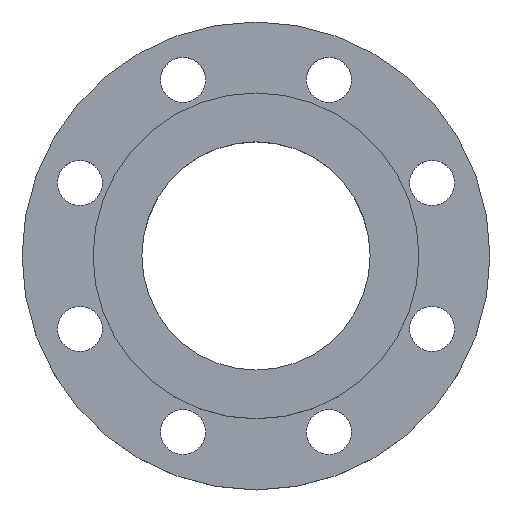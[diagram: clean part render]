
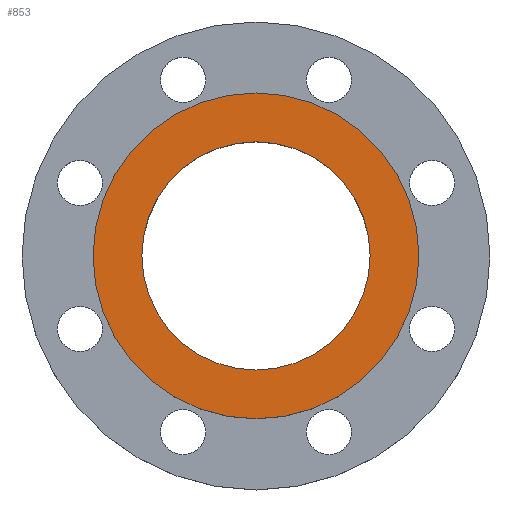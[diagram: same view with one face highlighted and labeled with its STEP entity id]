
A CAD part, top view. The second image highlights one B-rep face of the part: STEP entity #853.
In plain terms, the highlighted planar face has unit normal (0, 0, 1).
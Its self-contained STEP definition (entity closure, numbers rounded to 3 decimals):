
#16 = CARTESIAN_POINT ( 'NONE',  ( 65.85, 0., 22. ) ) ;
#37 = CIRCLE ( 'NONE', #730, 65.85 ) ;
#137 = ORIENTED_EDGE ( 'NONE', *, *, #702, .F. ) ;
#148 = DIRECTION ( 'NONE',  ( 0., 0., 1. ) ) ;
#164 = AXIS2_PLACEMENT_3D ( 'NONE', #1034, #188, #562 ) ;
#188 = DIRECTION ( 'NONE',  ( 0., 0., 1. ) ) ;
#200 = VERTEX_POINT ( 'NONE', #782 ) ;
#207 = CIRCLE ( 'NONE', #897, 94. ) ;
#237 = FACE_BOUND ( 'NONE', #571, .T. ) ;
#251 = VERTEX_POINT ( 'NONE', #426 ) ;
#253 = DIRECTION ( 'NONE',  ( 0., 0., 1. ) ) ;
#290 = EDGE_LOOP ( 'NONE', ( #710, #599 ) ) ;
#363 = EDGE_CURVE ( 'NONE', #251, #420, #207, .T. ) ;
#401 = ORIENTED_EDGE ( 'NONE', *, *, #444, .F. ) ;
#417 = CARTESIAN_POINT ( 'NONE',  ( 0., 0., 22. ) ) ;
#420 = VERTEX_POINT ( 'NONE', #440 ) ;
#426 = CARTESIAN_POINT ( 'NONE',  ( 94., 0., 22. ) ) ;
#440 = CARTESIAN_POINT ( 'NONE',  ( -94., 0., 22. ) ) ;
#444 = EDGE_CURVE ( 'NONE', #971, #200, #37, .T. ) ;
#454 = CARTESIAN_POINT ( 'NONE',  ( 0., 0., 22. ) ) ;
#521 = DIRECTION ( 'NONE',  ( 1., 0., 0. ) ) ;
#534 = CIRCLE ( 'NONE', #164, 65.85 ) ;
#551 = AXIS2_PLACEMENT_3D ( 'NONE', #454, #812, #1197 ) ;
#562 = DIRECTION ( 'NONE',  ( 1., 0., 0. ) ) ;
#571 = EDGE_LOOP ( 'NONE', ( #401, #137 ) ) ;
#599 = ORIENTED_EDGE ( 'NONE', *, *, #907, .T. ) ;
#616 = PLANE ( 'NONE',  #817 ) ;
#633 = DIRECTION ( 'NONE',  ( 1., 0., 0. ) ) ;
#702 = EDGE_CURVE ( 'NONE', #200, #971, #534, .T. ) ;
#710 = ORIENTED_EDGE ( 'NONE', *, *, #363, .T. ) ;
#730 = AXIS2_PLACEMENT_3D ( 'NONE', #1107, #253, #633 ) ;
#781 = DIRECTION ( 'NONE',  ( 0., 0., 1. ) ) ;
#782 = CARTESIAN_POINT ( 'NONE',  ( -65.85, 0., 22. ) ) ;
#812 = DIRECTION ( 'NONE',  ( 0., 0., 1. ) ) ;
#817 = AXIS2_PLACEMENT_3D ( 'NONE', #996, #148, #521 ) ;
#853 = ADVANCED_FACE ( 'NONE', ( #1090, #237 ), #616, .T. ) ;
#897 = AXIS2_PLACEMENT_3D ( 'NONE', #417, #781, #1168 ) ;
#907 = EDGE_CURVE ( 'NONE', #420, #251, #1079, .T. ) ;
#971 = VERTEX_POINT ( 'NONE', #16 ) ;
#996 = CARTESIAN_POINT ( 'NONE',  ( 65.85, 0., 22. ) ) ;
#1034 = CARTESIAN_POINT ( 'NONE',  ( 0., 0., 22. ) ) ;
#1079 = CIRCLE ( 'NONE', #551, 94. ) ;
#1090 = FACE_OUTER_BOUND ( 'NONE', #290, .T. ) ;
#1107 = CARTESIAN_POINT ( 'NONE',  ( 0., 0., 22. ) ) ;
#1168 = DIRECTION ( 'NONE',  ( 1., 0., 0. ) ) ;
#1197 = DIRECTION ( 'NONE',  ( 1., 0., 0. ) ) ;
